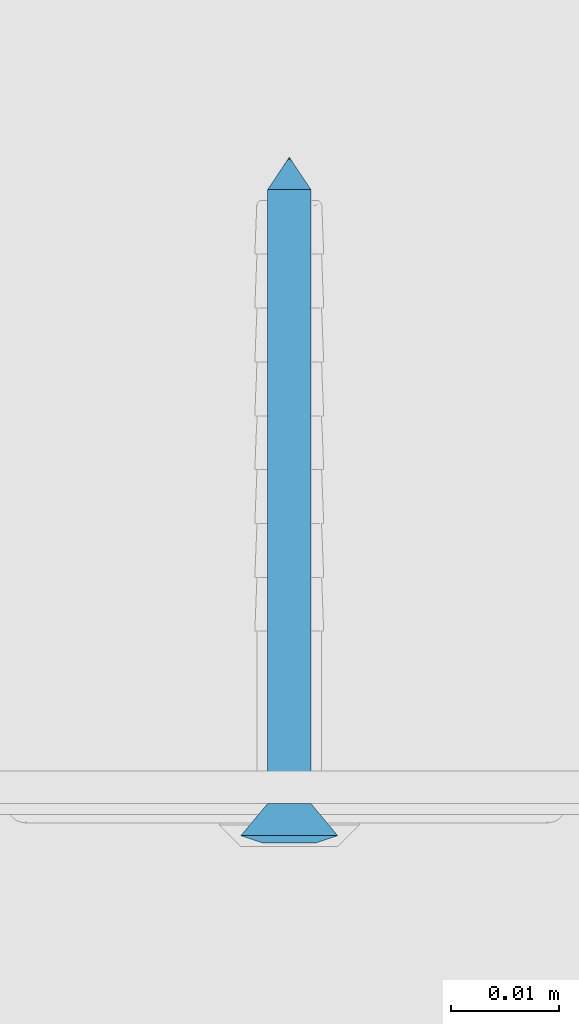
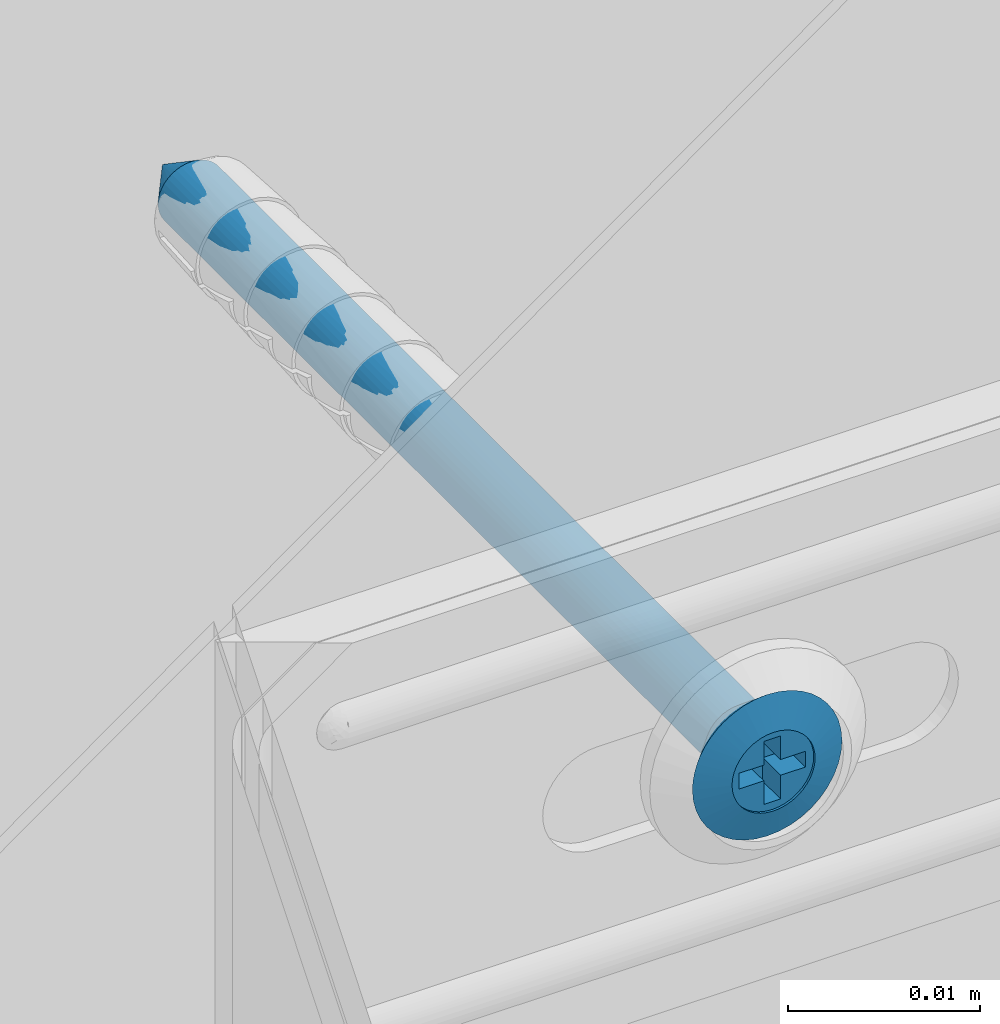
# One storey, part 54 of 62: 1 wall.
"""IFC2X3 building model written with IfcOpenShell, lengths in millimetres."""

from ifc_helpers import new_model, entity, si_unit, converted_unit, direction, frame, origin, origin_with_axes, place, context, project, spatial, faceted_brep, element, save


model = new_model("IFC2X3")

# Units and contexts
model_context = context("Model", 3, precision=1e-05, world=origin(), true_north=direction((0.0, 1.0, 0.0)))
ifc_project = project(units=[si_unit("LENGTHUNIT", "METRE", prefix="MILLI"), si_unit("AREAUNIT", "SQUARE_METRE"), si_unit("VOLUMEUNIT", "CUBIC_METRE"), converted_unit("PLANEANGLEUNIT", "DEGREE", entity("IfcPlaneAngleMeasure", 0.01745), si_unit("PLANEANGLEUNIT", "RADIAN"), dimensions=[0, 0, 0, 0, 0, 0, 0]), si_unit("SOLIDANGLEUNIT", "STERADIAN"), si_unit("MASSUNIT", "GRAM"), si_unit("TIMEUNIT", "SECOND"), si_unit("THERMODYNAMICTEMPERATUREUNIT", "DEGREE_CELSIUS"), si_unit("LUMINOUSINTENSITYUNIT", "LUMEN")], contexts=[model_context])

# Site, building, storey
site_placement = place(None, origin_with_axes())
site = spatial("IfcSite", under=ifc_project, at=site_placement, Name="Default Site", CompositionType="ELEMENT")
building_placement = place(site_placement, origin_with_axes())
building = spatial("IfcBuilding", under=site, at=building_placement, Name="Default Building", CompositionType="ELEMENT")
storey_placement = place(building_placement, origin_with_axes())
storey = spatial("IfcBuildingStorey", under=building, at=storey_placement, Name="Default Building Storey", CompositionType="ELEMENT", Elevation=0.0)

# Wall
wall_placement = place(storey_placement, frame((5741.263760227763, 2016.328611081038, -1145.863402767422), z_axis=(-6.858158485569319e-13, -1.0, -7.642380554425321e-14), x_axis=(-1.647602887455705e-11, 7.642380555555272e-14, -1.0)))
element("IfcWall", 1, at=wall_placement, inside=storey, Name="Kołek rozporowy min. fi 6", context=model_context, shape_type="Brep", body=[
    faceted_brep([(-1438.31414949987, -3453.283223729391, -0.4642567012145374), (-1435.814149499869, -3453.283223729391, -3.464256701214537), (-1435.78952618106, -3452.97035479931, -3.464256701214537), (-1438.258747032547, -3452.57926863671, -0.4642567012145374), (-1435.71626253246, -3452.665189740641, -3.464256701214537), (-1438.093903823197, -3451.892647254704, -0.4642567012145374), (-1435.596162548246, -3452.375242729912, -3.464256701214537), (-1437.823678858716, -3451.240266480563, -0.4642567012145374), (-1435.432183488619, -3452.107653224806, -3.464256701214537), (-1437.454725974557, -3450.638190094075, -0.4642567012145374), (-1435.228363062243, -3451.869010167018, -3.464256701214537), (-1436.996130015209, -3450.101243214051, -0.4642567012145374), (-1434.989720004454, -3451.665189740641, -3.464256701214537), (-1436.459183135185, -3449.642647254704, -0.4642567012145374), (-1434.722130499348, -3451.501210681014, -3.464256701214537), (-1435.857106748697, -3449.273694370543, -0.4642567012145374), (-1434.432183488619, -3451.381110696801, -3.464256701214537), (-1435.204725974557, -3449.003469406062, -0.4642567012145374), (-1434.12701842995, -3451.307847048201, -3.464256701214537), (-1434.51810459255, -3448.838626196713, -0.4642567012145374), (-1433.814149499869, -3451.283223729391, -3.464256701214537), (-1433.814149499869, -3448.783223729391, -0.4642567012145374), (-1433.501280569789, -3451.307847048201, -3.464256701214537), (-1433.110194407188, -3448.838626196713, -0.4642567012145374), (-1433.19611551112, -3451.381110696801, -3.464256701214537), (-1432.423573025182, -3449.003469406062, -0.4642567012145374), (-1432.906168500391, -3451.501210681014, -3.464256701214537), (-1431.771192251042, -3449.273694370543, -0.4642567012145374), (-1432.638578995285, -3451.665189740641, -3.464256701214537), (-1431.169115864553, -3449.642647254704, -0.4642567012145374), (-1432.399935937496, -3451.869010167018, -3.464256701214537), (-1430.63216898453, -3450.101243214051, -0.4642567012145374), (-1432.196115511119, -3452.107653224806, -3.464256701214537), (-1430.173573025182, -3450.638190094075, -0.4642567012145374), (-1432.032136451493, -3452.375242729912, -3.464256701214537), (-1429.804620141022, -3451.240266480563, -0.4642567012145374), (-1431.912036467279, -3452.665189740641, -3.464256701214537), (-1429.534395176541, -3451.892647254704, -0.4642567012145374), (-1431.838772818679, -3453.596092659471, -3.464256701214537), (-1429.369551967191, -3453.987178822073, -0.4642567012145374), (-1429.314149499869, -3453.283223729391, -0.4642567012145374), (-1431.81414949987, -3453.283223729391, -3.464256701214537), (-1429.369551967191, -3452.57926863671, -0.4642567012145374), (-1431.838772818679, -3452.97035479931, -3.464256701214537), (-1431.912036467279, -3453.901257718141, -3.464256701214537), (-1429.534395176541, -3454.673800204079, -0.4642567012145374), (-1432.032136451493, -3454.19120472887, -3.464256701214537), (-1429.804620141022, -3455.326180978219, -0.4642567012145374), (-1432.196115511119, -3454.458794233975, -3.464256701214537), (-1430.173573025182, -3455.928257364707, -0.4642567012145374), (-1432.399935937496, -3454.697437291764, -3.464256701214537), (-1430.63216898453, -3456.465204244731, -0.4642567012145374), (-1432.638578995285, -3454.901257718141, -3.464256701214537), (-1431.169115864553, -3456.923800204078, -0.4642567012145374), (-1432.906168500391, -3455.065236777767, -3.464256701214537), (-1431.771192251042, -3457.292753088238, -0.4642567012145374), (-1433.19611551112, -3455.185336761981, -3.464256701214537), (-1432.423573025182, -3457.562978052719, -0.4642567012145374), (-1433.501280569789, -3455.258600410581, -3.464256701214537), (-1433.110194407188, -3457.727821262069, -0.4642567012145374), (-1433.814149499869, -3455.283223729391, -3.464256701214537), (-1433.814149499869, -3457.783223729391, -0.4642567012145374), (-1434.34306778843, -3457.752031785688, -0.4642567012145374), (-1434.12701842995, -3455.258600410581, -3.464256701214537), (-1434.432183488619, -3455.185336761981, -3.464256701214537), (-1434.864653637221, -3457.658888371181, -0.4642567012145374), (-1435.371676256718, -3457.505084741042, -0.4642567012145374), (-1434.722130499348, -3455.065236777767, -3.464256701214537), (-1435.857106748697, -3457.292753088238, -0.4642567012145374), (-1434.989720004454, -3454.901257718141, -3.464256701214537), (-1435.228363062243, -3454.697437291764, -3.464256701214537), (-1436.314215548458, -3457.024836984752, -0.4642567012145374), (-1436.736665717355, -3456.705050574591, -0.4642567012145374), (-1437.11860079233, -3456.337827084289, -0.4642567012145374), (-1437.454725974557, -3455.928257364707, -0.4642567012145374), (-1435.432183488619, -3454.458794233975, -3.464256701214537), (-1435.596162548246, -3454.19120472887, -3.464256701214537), (-1437.823678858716, -3455.326180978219, -0.4642567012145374), (-1435.71626253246, -3453.901257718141, -3.464256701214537), (-1438.093903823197, -3454.673800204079, -0.4642567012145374), (-1435.78952618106, -3453.596092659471, -3.464256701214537), (-1438.258747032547, -3453.987178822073, -0.4642567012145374), (-1434.205235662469, -3455.752444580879, 0.2007375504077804), (-1433.814149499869, -3455.78322372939, 0.2007375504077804), (-1434.586691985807, -3455.660865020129, 0.2007375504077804), (-1434.949125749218, -3455.510740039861, 0.2007375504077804), (-1435.283612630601, -3455.305766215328, 0.2007375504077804), (-1435.581916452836, -3455.050990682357, 0.2007375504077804), (-1435.836691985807, -3454.752686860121, 0.2007375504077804), (-1436.04166581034, -3454.41819997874, 0.2007375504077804), (-1436.191790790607, -3454.055766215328, 0.2007375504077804), (-1436.283370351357, -3453.674309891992, 0.2007375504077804), (-1436.314149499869, -3453.283223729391, 0.2007375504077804), (-1436.283370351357, -3452.892137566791, 0.2007375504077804), (-1436.191790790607, -3452.510681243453, 0.2007375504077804), (-1436.04166581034, -3452.148247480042, 0.2007375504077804), (-1435.836691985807, -3451.81376059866, 0.200737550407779), (-1435.581916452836, -3451.515456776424, 0.2007375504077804), (-1435.283612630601, -3451.260681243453, 0.2007375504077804), (-1434.949125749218, -3451.05570741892, 0.2007375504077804), (-1434.586691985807, -3450.905582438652, 0.2007375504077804), (-1433.423063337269, -3450.814002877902, 0.2007375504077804), (-1433.814149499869, -3450.783223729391, 0.2007375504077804), (-1434.205235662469, -3450.814002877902, 0.2007375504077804), (-1433.041607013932, -3450.905582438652, 0.2007375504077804), (-1432.67917325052, -3451.05570741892, 0.2007375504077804), (-1432.344686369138, -3451.260681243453, 0.2007375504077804), (-1432.046382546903, -3451.515456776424, 0.2007375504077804), (-1431.791607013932, -3451.81376059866, 0.2007375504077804), (-1431.586633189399, -3452.148247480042, 0.2007375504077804), (-1431.436508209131, -3452.510681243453, 0.2007375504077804), (-1431.344928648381, -3452.892137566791, 0.2007375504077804), (-1431.314149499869, -3453.283223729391, 0.2007375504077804), (-1431.344928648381, -3453.674309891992, 0.2007375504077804), (-1431.436508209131, -3454.055766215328, 0.2007375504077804), (-1431.586633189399, -3454.41819997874, 0.2007375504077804), (-1431.791607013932, -3454.752686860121, 0.2007375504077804), (-1432.046382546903, -3455.050990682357, 0.2007375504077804), (-1432.344686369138, -3455.305766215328, 0.2007375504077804), (-1432.67917325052, -3455.510740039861, 0.2007375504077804), (-1433.041607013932, -3455.660865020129, 0.2007375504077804), (-1433.423063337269, -3455.752444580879, 0.2007375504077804), (-1433.814149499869, -3453.283223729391, -63.46425670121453), (-1435.789526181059, -3452.97035479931, -60.46425670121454), (-1435.814149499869, -3453.283223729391, -60.46425670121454), (-1435.716262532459, -3452.665189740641, -60.46425670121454), (-1435.596162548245, -3452.375242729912, -60.46425670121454), (-1435.432183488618, -3452.107653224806, -60.46425670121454), (-1435.228363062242, -3451.869010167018, -60.46425670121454), (-1434.989720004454, -3451.665189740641, -60.46425670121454), (-1434.722130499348, -3451.501210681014, -60.46425670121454), (-1434.432183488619, -3451.381110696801, -60.46425670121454), (-1434.127018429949, -3451.307847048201, -60.46425670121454), (-1433.814149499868, -3451.283223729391, -60.46425670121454), (-1433.501280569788, -3451.307847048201, -60.46425670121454), (-1433.196115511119, -3451.381110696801, -60.46425670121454), (-1432.90616850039, -3451.501210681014, -60.46425670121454), (-1432.638578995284, -3451.665189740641, -60.46425670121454), (-1432.399935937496, -3451.869010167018, -60.46425670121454), (-1432.196115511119, -3452.107653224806, -60.46425670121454), (-1432.032136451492, -3452.375242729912, -60.46425670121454), (-1431.912036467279, -3452.665189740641, -60.46425670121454), (-1431.838772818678, -3452.97035479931, -60.46425670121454), (-1431.814149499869, -3453.283223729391, -60.46425670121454), (-1431.838772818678, -3453.596092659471, -60.46425670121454), (-1431.912036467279, -3453.901257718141, -60.46425670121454), (-1432.032136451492, -3454.19120472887, -60.46425670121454), (-1432.196115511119, -3454.458794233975, -60.46425670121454), (-1432.399935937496, -3454.697437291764, -60.46425670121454), (-1432.638578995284, -3454.901257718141, -60.46425670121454), (-1432.90616850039, -3455.065236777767, -60.46425670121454), (-1433.196115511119, -3455.185336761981, -60.46425670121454), (-1433.501280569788, -3455.258600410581, -60.46425670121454), (-1433.814149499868, -3455.283223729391, -60.46425670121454), (-1434.127018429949, -3455.258600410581, -60.46425670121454), (-1434.432183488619, -3455.185336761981, -60.46425670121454), (-1434.722130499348, -3455.065236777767, -60.46425670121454), (-1434.989720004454, -3454.901257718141, -60.46425670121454), (-1435.228363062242, -3454.697437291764, -60.46425670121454), (-1435.432183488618, -3454.458794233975, -60.46425670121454), (-1435.596162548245, -3454.19120472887, -60.46425670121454), (-1435.716262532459, -3453.901257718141, -60.46425670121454), (-1435.789526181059, -3453.596092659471, -60.46425670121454), (-1435.814149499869, -3453.783223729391, 0.04999999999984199), (-1436.04166581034, -3454.41819997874, 0.04999999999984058), (-1436.191790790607, -3454.055766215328, 0.04999999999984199), (-1435.814149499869, -3452.783223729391, 0.04999999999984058), (-1434.314149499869, -3453.783223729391, 0.04999999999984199), (-1434.314149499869, -3455.28322372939, 0.04999999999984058), (-1433.314149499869, -3455.28322372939, 0.04999999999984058), (-1433.314149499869, -3453.783223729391, 0.04999999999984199), (-1431.814149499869, -3453.783223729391, 0.04999999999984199), (-1431.814149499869, -3452.783223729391, 0.04999999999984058), (-1433.314149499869, -3452.783223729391, 0.04999999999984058), (-1433.314149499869, -3451.283223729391, 0.04999999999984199), (-1434.314149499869, -3451.283223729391, 0.04999999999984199), (-1434.314149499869, -3452.783223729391, 0.04999999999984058), (-1436.283370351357, -3453.674309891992, 0.04999999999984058), (-1436.314149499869, -3453.283223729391, 0.04999999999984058), (-1436.283370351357, -3452.892137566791, 0.04999999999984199), (-1436.191790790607, -3452.510681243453, 0.04999999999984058), (-1436.04166581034, -3452.148247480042, 0.04999999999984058), (-1435.836691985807, -3451.81376059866, 0.04999999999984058), (-1435.581916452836, -3451.515456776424, 0.04999999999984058), (-1435.283612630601, -3451.260681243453, 0.04999999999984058), (-1434.949125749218, -3451.05570741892, 0.04999999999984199), (-1434.586691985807, -3450.905582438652, 0.04999999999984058), (-1434.205235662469, -3450.814002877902, 0.04999999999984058), (-1433.814149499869, -3450.783223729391, 0.04999999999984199), (-1433.423063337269, -3450.814002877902, 0.04999999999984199), (-1433.041607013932, -3450.905582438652, 0.04999999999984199), (-1432.67917325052, -3451.05570741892, 0.04999999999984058), (-1432.344686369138, -3451.260681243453, 0.04999999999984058), (-1432.046382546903, -3451.515456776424, 0.04999999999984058), (-1431.791607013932, -3451.81376059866, 0.04999999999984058), (-1431.586633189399, -3452.148247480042, 0.04999999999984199), (-1431.436508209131, -3452.510681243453, 0.04999999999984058), (-1431.344928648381, -3452.892137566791, 0.04999999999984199), (-1431.314149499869, -3453.283223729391, 0.04999999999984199), (-1431.344928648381, -3453.674309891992, 0.04999999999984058), (-1431.436508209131, -3454.055766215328, 0.04999999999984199), (-1431.586633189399, -3454.41819997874, 0.04999999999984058), (-1431.791607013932, -3454.752686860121, 0.04999999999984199), (-1432.046382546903, -3455.050990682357, 0.04999999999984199), (-1432.344686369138, -3455.305766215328, 0.04999999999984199), (-1432.67917325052, -3455.510740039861, 0.04999999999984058), (-1433.041607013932, -3455.660865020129, 0.04999999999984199), (-1433.423063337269, -3455.752444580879, 0.04999999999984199), (-1433.814149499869, -3455.78322372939, 0.04999999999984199), (-1434.205235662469, -3455.752444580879, 0.04999999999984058), (-1434.586691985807, -3455.660865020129, 0.04999999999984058), (-1434.949125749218, -3455.510740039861, 0.04999999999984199), (-1435.283612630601, -3455.305766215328, 0.04999999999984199), (-1435.581916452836, -3455.050990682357, 0.04999999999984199), (-1435.836691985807, -3454.752686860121, 0.04999999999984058), (-1434.314149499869, -3452.783223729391, -1.79926244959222), (-1434.314149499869, -3451.283223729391, -1.799262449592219), (-1433.314149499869, -3451.283223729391, -1.799262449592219), (-1433.314149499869, -3452.783223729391, -1.79926244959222), (-1431.81414949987, -3452.783223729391, -1.79926244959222), (-1431.81414949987, -3453.783223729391, -1.799262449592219), (-1433.314149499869, -3453.783223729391, -1.799262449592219), (-1433.314149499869, -3455.28322372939, -1.79926244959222), (-1434.314149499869, -3455.28322372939, -1.79926244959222), (-1434.314149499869, -3453.783223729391, -1.799262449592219), (-1435.814149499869, -3453.783223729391, -1.799262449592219), (-1435.814149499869, -3452.783223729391, -1.79926244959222)], [[[0, 1, 2, 3]], [[4, 5, 3, 2]], [[6, 7, 5, 4]], [[7, 6, 8, 9]], [[10, 11, 9, 8]], [[11, 10, 12, 13]], [[14, 15, 13, 12]], [[16, 17, 15, 14]], [[17, 16, 18, 19]], [[20, 21, 19, 18]], [[21, 20, 22, 23]], [[24, 25, 23, 22]], [[26, 27, 25, 24]], [[27, 26, 28, 29]], [[30, 31, 29, 28]], [[31, 30, 32, 33]], [[34, 35, 33, 32]], [[36, 37, 35, 34]], [[38, 39, 40, 41]], [[41, 40, 42, 43]], [[37, 36, 43, 42]], [[44, 45, 39, 38]], [[46, 47, 45, 44]], [[47, 46, 48, 49]], [[50, 51, 49, 48]], [[51, 50, 52, 53]], [[54, 55, 53, 52]], [[56, 57, 55, 54]], [[57, 56, 58, 59]], [[60, 61, 59, 58]], [[62, 61, 63]], [[61, 60, 63]], [[63, 64, 62]], [[64, 65, 62]], [[66, 65, 64]], [[64, 67, 66]], [[67, 68, 66]], [[69, 70, 71]], [[70, 72, 71]], [[71, 68, 69]], [[68, 67, 69]], [[70, 73, 72]], [[74, 73, 75]], [[73, 70, 75]], [[76, 77, 74, 75]], [[78, 79, 77, 76]], [[79, 78, 80, 81]], [[1, 0, 81, 80]], [[82, 83, 62]], [[83, 61, 62]], [[62, 65, 82]], [[65, 84, 82]], [[66, 68, 84]], [[68, 85, 84]], [[84, 65, 66]], [[86, 85, 71]], [[85, 68, 71]], [[72, 73, 87]], [[87, 86, 72]], [[86, 71, 72]], [[88, 87, 74]], [[87, 73, 74]], [[77, 89, 88, 74]], [[79, 90, 89, 77]], [[90, 79, 81, 91]], [[0, 92, 91, 81]], [[92, 0, 3, 93]], [[5, 94, 93, 3]], [[7, 95, 94, 5]], [[95, 7, 9, 96]], [[11, 97, 96, 9]], [[97, 11, 13, 98]], [[15, 99, 98, 13]], [[17, 100, 99, 15]], [[23, 101, 102, 21]], [[21, 102, 103, 19]], [[100, 17, 19, 103]], [[25, 104, 101, 23]], [[27, 105, 104, 25]], [[105, 27, 29, 106]], [[31, 107, 106, 29]], [[107, 31, 33, 108]], [[35, 109, 108, 33]], [[37, 110, 109, 35]], [[110, 37, 42, 111]], [[40, 112, 111, 42]], [[112, 40, 39, 113]], [[45, 114, 113, 39]], [[47, 115, 114, 45]], [[115, 47, 49, 116]], [[51, 117, 116, 49]], [[117, 51, 53, 118]], [[55, 119, 118, 53]], [[57, 120, 119, 55]], [[120, 57, 59, 121]], [[61, 83, 121, 59]], [[122, 123, 124]], [[122, 125, 123]], [[122, 126, 125]], [[127, 126, 122]], [[122, 128, 127]], [[129, 128, 122]], [[122, 130, 129]], [[122, 131, 130]], [[132, 131, 122]], [[122, 133, 132]], [[134, 133, 122]], [[122, 135, 134]], [[122, 136, 135]], [[137, 136, 122]], [[122, 138, 137]], [[139, 138, 122]], [[122, 140, 139]], [[122, 141, 140]], [[142, 141, 122]], [[122, 143, 142]], [[144, 143, 122]], [[122, 145, 144]], [[122, 146, 145]], [[147, 146, 122]], [[122, 148, 147]], [[149, 148, 122]], [[122, 150, 149]], [[122, 151, 150]], [[152, 151, 122]], [[122, 153, 152]], [[154, 153, 122]], [[122, 155, 154]], [[122, 156, 155]], [[157, 156, 122]], [[122, 158, 157]], [[159, 158, 122]], [[122, 160, 159]], [[122, 161, 160]], [[162, 161, 122]], [[124, 162, 122]], [[1, 124, 123, 2]], [[125, 4, 2, 123]], [[126, 6, 4, 125]], [[6, 126, 127, 8]], [[128, 10, 8, 127]], [[10, 128, 129, 12]], [[130, 14, 12, 129]], [[131, 16, 14, 130]], [[16, 131, 132, 18]], [[133, 20, 18, 132]], [[20, 133, 134, 22]], [[135, 24, 22, 134]], [[136, 26, 24, 135]], [[26, 136, 137, 28]], [[138, 30, 28, 137]], [[30, 138, 139, 32]], [[140, 34, 32, 139]], [[141, 36, 34, 140]], [[144, 38, 41, 143]], [[143, 41, 43, 142]], [[36, 141, 142, 43]], [[145, 44, 38, 144]], [[146, 46, 44, 145]], [[46, 146, 147, 48]], [[148, 50, 48, 147]], [[50, 148, 149, 52]], [[150, 54, 52, 149]], [[151, 56, 54, 150]], [[56, 151, 152, 58]], [[153, 60, 58, 152]], [[60, 153, 154, 63]], [[155, 64, 63, 154]], [[156, 67, 64, 155]], [[67, 156, 157, 69]], [[158, 70, 69, 157]], [[70, 158, 159, 75]], [[160, 76, 75, 159]], [[161, 78, 76, 160]], [[78, 161, 162, 80]], [[124, 1, 80, 162]], [[163, 164, 165, 166]], [[163, 167, 168, 169, 170, 171, 172, 173, 174, 175, 176, 166, 165, 177, 178, 179, 180, 181, 182, 183, 184, 185, 186, 187, 188, 189, 190, 191, 192, 193, 194, 195, 196, 197, 198, 199, 200, 201, 202, 203, 204, 205, 206, 207, 208, 209, 210, 211, 212, 213, 214, 164]], [[199, 198, 112, 113]], [[113, 114, 200, 199]], [[114, 115, 201, 200]], [[202, 201, 115, 116]], [[116, 117, 203, 202]], [[204, 203, 117, 118]], [[118, 119, 205, 204]], [[119, 120, 206, 205]], [[207, 206, 120, 121]], [[121, 83, 208, 207]], [[209, 208, 83, 82]], [[82, 84, 210, 209]], [[84, 85, 211, 210]], [[212, 211, 85, 86]], [[86, 87, 213, 212]], [[214, 213, 87, 88]], [[88, 89, 164, 214]], [[89, 90, 165, 164]], [[92, 93, 179, 178]], [[91, 92, 178, 177]], [[177, 165, 90, 91]], [[93, 94, 180, 179]], [[94, 95, 181, 180]], [[182, 181, 95, 96]], [[96, 97, 183, 182]], [[184, 183, 97, 98]], [[98, 99, 185, 184]], [[99, 100, 186, 185]], [[187, 186, 100, 103]], [[103, 102, 188, 187]], [[189, 188, 102, 101]], [[101, 104, 190, 189]], [[104, 105, 191, 190]], [[192, 191, 105, 106]], [[106, 107, 193, 192]], [[194, 193, 107, 108]], [[108, 109, 195, 194]], [[109, 110, 196, 195]], [[197, 196, 110, 111]], [[111, 112, 198, 197]], [[215, 216, 217, 218, 219, 220, 221, 222, 223, 224, 225, 226]], [[216, 175, 174, 217]], [[215, 176, 175, 216]], [[226, 166, 176, 215]], [[225, 163, 166, 226]], [[224, 167, 163, 225]], [[223, 168, 167, 224]], [[222, 169, 168, 223]], [[221, 170, 169, 222]], [[220, 171, 170, 221]], [[219, 172, 171, 220]], [[218, 173, 172, 219]], [[217, 174, 173, 218]]]),
])

save(model, "model.ifc")
